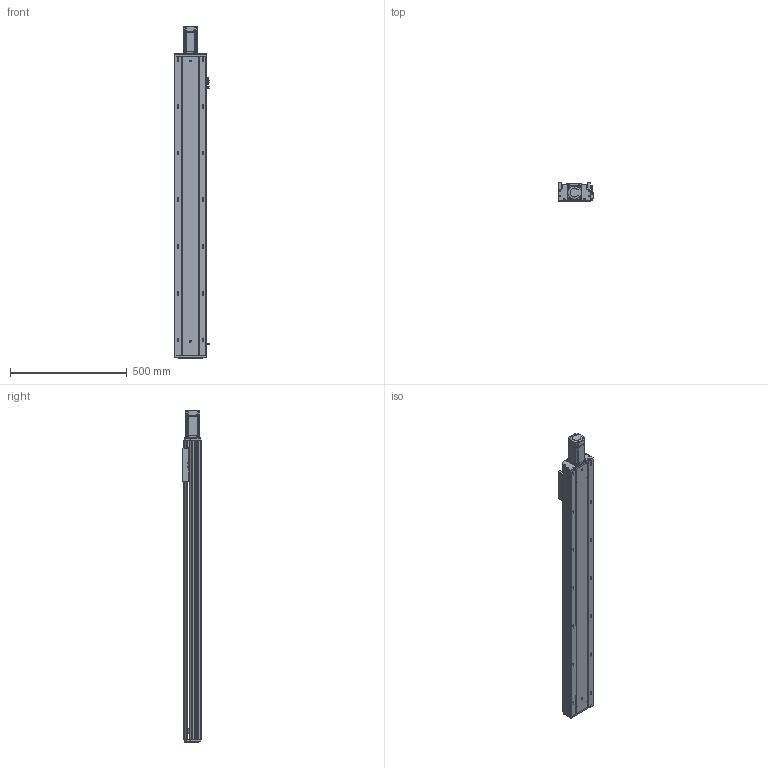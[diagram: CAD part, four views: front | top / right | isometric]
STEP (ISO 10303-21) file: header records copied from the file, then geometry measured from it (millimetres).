
FILE_DESCRIPTION (( 'STEP AP203' ), '1' );
FILE_NAME ('RY140Q-L2010-1000-MK.SLDASM_1050.step', '2021-05-27T07:34:25', ( '盈信电脑' ), ( '东莞市道滘镇水果街19号' ), 'SwSTEP 2.0', 'SolidWorks 2016', '' );
FILE_SCHEMA (( 'CONFIG_CONTROL_DESIGN' ));
Length unit declared in the file: millimetre
Products named in the file (13): 滅袉蝶18-10; RY120外置感应片(140共用）; RY140Q臏賑輸(20佪裝-J; RY140Q萇儂傷盓傅釱FK12(80.5酗M5); 滅袉蝶18-15; RY140Q-L2010-1000-MK.SLDASM_1050; 覜茼ん672; 15; RY140Q-1000-MK倰第奻裔啣_1050; 侂狟400W侜督萇儂; RY140綴裔啣; RY140ヶ裔啣; RY140Q-1000-MK倰第菁釱_1050
Assembly tree (15 placements, depth 3):
  RY140Q-L2010-1000-MK.SLDASM_1050
    RY140Q-1000-MK倰第菁釱_1050
    RY140Q臏賑輸(20佪裝-J
    RY140Q-1000-MK倰第奻裔啣_1050
    RY140ヶ裔啣
    侂狟400W侜督萇儂
      15
    RY140綴裔啣
    覜茼ん672  x3
    RY120外置感应片(140共用）
    RY140Q萇儂傷盓傅釱FK12(80.5酗M5)
    滅袉蝶18-10
    滅袉蝶18-15  x2
Bounding box: 148.7 x 78 x 1419.5 mm (x, y, z)
Volume: 3955225.2 mm3; surface area: 1453667.2 mm2
Topology: 14 solids, 14 shells, 2134 faces, 5893 edges, 3757 vertices
Faces by surface type: plane 1078, cylinder 756, cone 215, bspline 85
Entity records: 70225 total; most frequent: CARTESIAN_POINT 16788, ORIENTED_EDGE 11038, DIRECTION 10535, EDGE_CURVE 5519, VERTEX_POINT 3617, VECTOR 3533, LINE 3533, AXIS2_PLACEMENT_3D 3501
